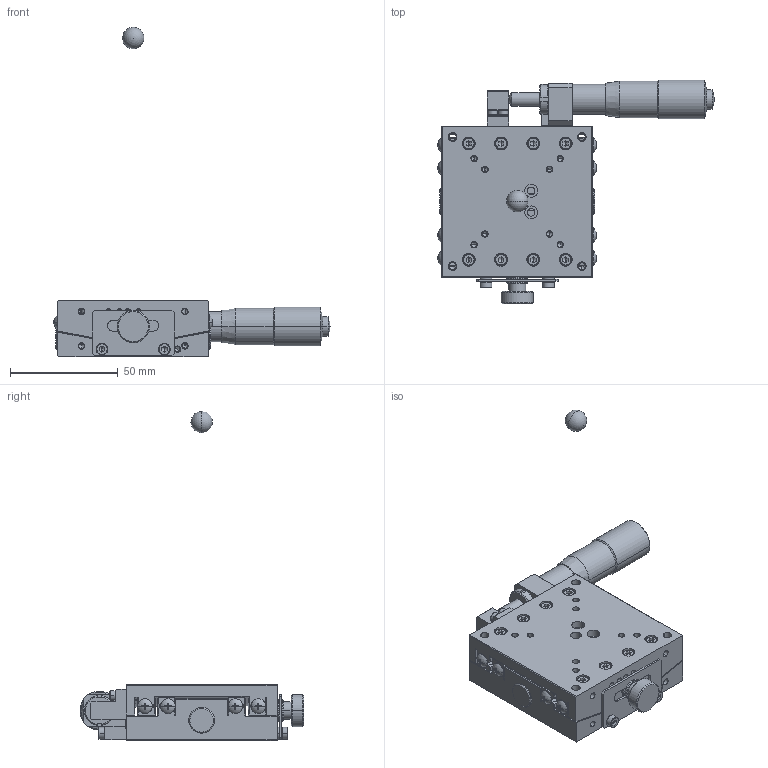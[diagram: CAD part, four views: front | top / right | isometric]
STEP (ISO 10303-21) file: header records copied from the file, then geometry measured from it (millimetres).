
FILE_DESCRIPTION (( 'STEP AP214' ), '1' );
FILE_NAME ('ST07A-S1B-R.STEP', '2007-01-19T01:39:37', ( ' ' ), ( ' ' ), 'SwSTEP 2.0', 'SolidWorks 2006052', '' );
FILE_SCHEMA (( 'AUTOMOTIVE_DESIGN' ));
Length unit declared in the file: millimetre
Products named in the file (5): ST07A-S1B-R-Part-1; 002610-1011(3D)-1; MICROMETERHEAD(MHN4-25T)spindle-5; 002610-1020(3D)-1; ST07A-S1B-R
Assembly tree (4 placements, depth 2):
  ST07A-S1B-R
    ST07A-S1B-R-Part-1
    002610-1020(3D)-1
    MICROMETERHEAD(MHN4-25T)spindle-5
    002610-1011(3D)-1
Bounding box: 128.39 x 104 x 153 mm (x, y, z)
Volume: 127559.9 mm3; surface area: 59284.8 mm2
Topology: 4 solids, 41 shells, 1772 faces, 4089 edges, 2385 vertices
Faces by surface type: plane 718, cylinder 587, cone 437, sphere 22, torus 8
Entity records: 52480 total; most frequent: CARTESIAN_POINT 12254, DIRECTION 8820, ORIENTED_EDGE 7932, EDGE_CURVE 3966, AXIS2_PLACEMENT_3D 3406, VERTEX_POINT 2382, LINE 2008, VECTOR 2008
